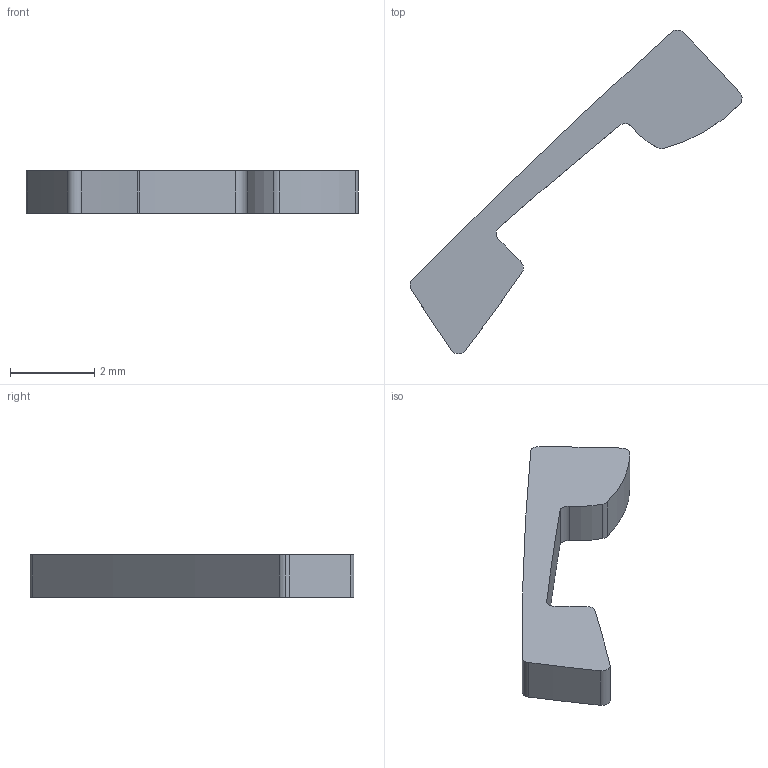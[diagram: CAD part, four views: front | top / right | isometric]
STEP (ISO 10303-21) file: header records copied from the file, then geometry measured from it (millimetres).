
FILE_DESCRIPTION (( 'STEP AP203' ), '1' );
FILE_NAME ('Hoerer.STEP', '2009-02-16T15:44:14', ( ' ' ), ( ' ' ), 'SwSTEP 2.0', 'SolidWorks 2008', '' );
FILE_SCHEMA (( 'CONFIG_CONTROL_DESIGN' ));
Length unit declared in the file: millimetre
Products named in the file (1): Hoerer
Bounding box: 7.87 x 7.68 x 1 mm (x, y, z)
Volume: 12.9 mm3; surface area: 50 mm2
Topology: 1 solids, 1 shells, 20 faces, 54 edges, 36 vertices
Faces by surface type: cylinder 18, plane 2
Entity records: 731 total; most frequent: DIRECTION 132, CARTESIAN_POINT 111, ORIENTED_EDGE 108, AXIS2_PLACEMENT_3D 57, EDGE_CURVE 54, CIRCLE 36, VERTEX_POINT 36, FACE_OUTER_BOUND 20
